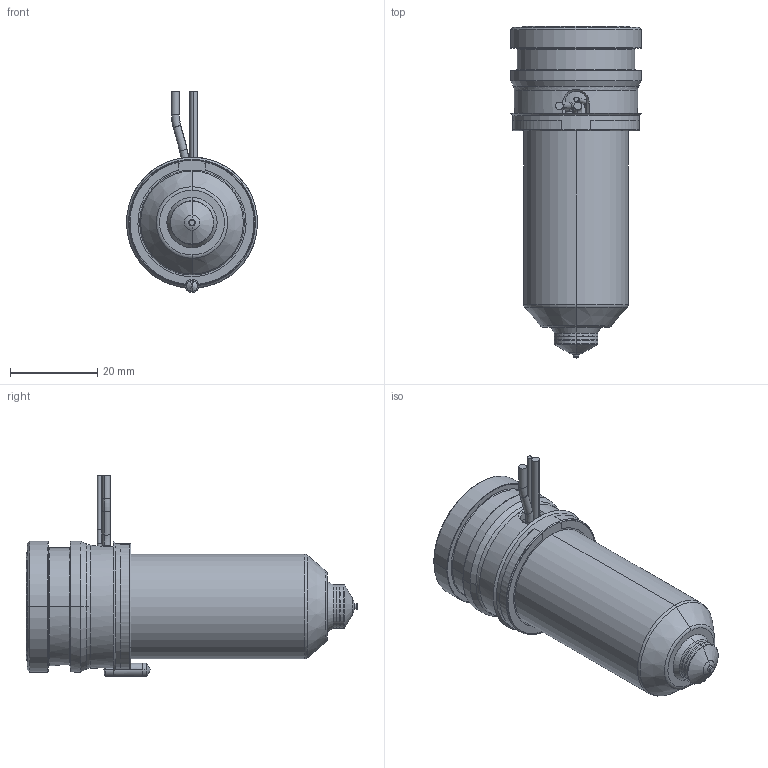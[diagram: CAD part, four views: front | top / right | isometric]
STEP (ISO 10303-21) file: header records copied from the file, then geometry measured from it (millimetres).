
FILE_DESCRIPTION((''),'2;1');
FILE_NAME('MPN-10-29-VSA10-056-A','2026-02-05T12:44:02',('UPTIO'),('Thermoplay S.p.A.'),'CREO PARAMETRIC BY PTC INC, 2023494','CREO PARAMETRIC BY PTC INC, 2023494','');
FILE_SCHEMA(('CONFIG_CONTROL_DESIGN','SHAPE_APPEARANCE_LAYERS_GROUPS'));
Length unit declared in the file: millimetre
Products named in the file (1): MPN-10-29-VSA10-056-A
Bounding box: 30 x 76 x 46 mm (x, y, z)
Volume: 24984.5 mm3; surface area: 24445.9 mm2
Topology: 2 solids, 3 shells, 548 faces, 1434 edges, 884 vertices
Faces by surface type: cylinder 183, plane 139, bspline 77, torus 70, cone 70, sphere 9
Entity records: 29630 total; most frequent: CARTESIAN_POINT 13394, ORIENTED_EDGE 2856, DIRECTION 2659, EDGE_CURVE 1428, AXIS2_PLACEMENT_3D 1057, VERTEX_POINT 884, CIRCLE 585, EDGE_LOOP 576
